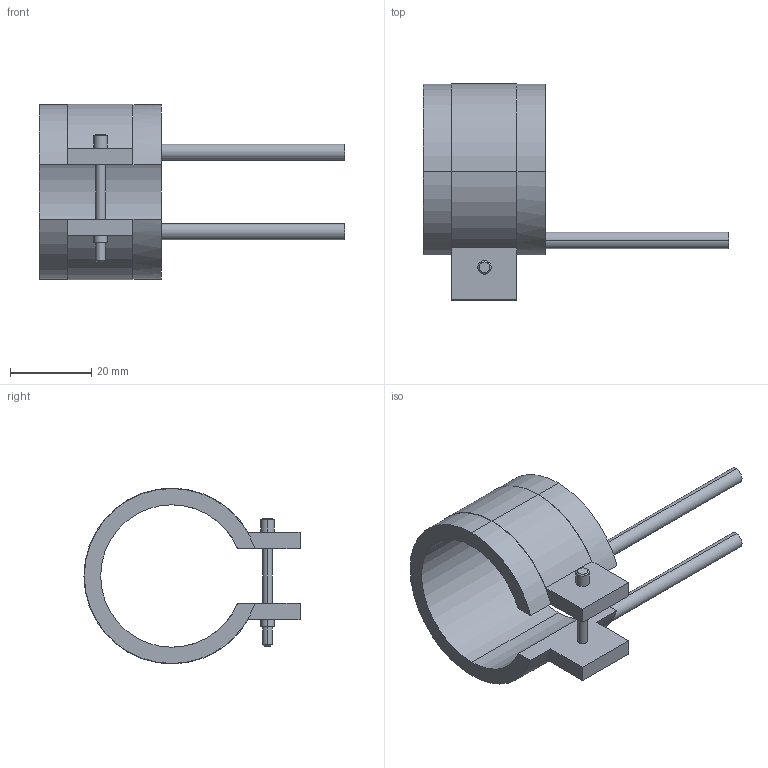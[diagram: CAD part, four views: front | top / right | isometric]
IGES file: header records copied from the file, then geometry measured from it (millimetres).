
Start section: START RECORD GO HERE.
Global section: file name: 14035030.igs; native system: DASSAULT SYSTEMES CATIA V5 R20 - www.3ds.com; preprocessor: CATIA Version 5 Release 20 ; author: Utente; organization: NB04-ASUS; date: 20210331.133759; units: millimetre
Bounding box: 75 x 53.1 x 43.2 mm (x, y, z)
Surface area: 9930.7 mm2 (no closed solid volume)
Topology: 0 solids, 0 shells, 45 faces, 232 edges, 232 vertices
Faces by surface type: revolution 28, plane 17
